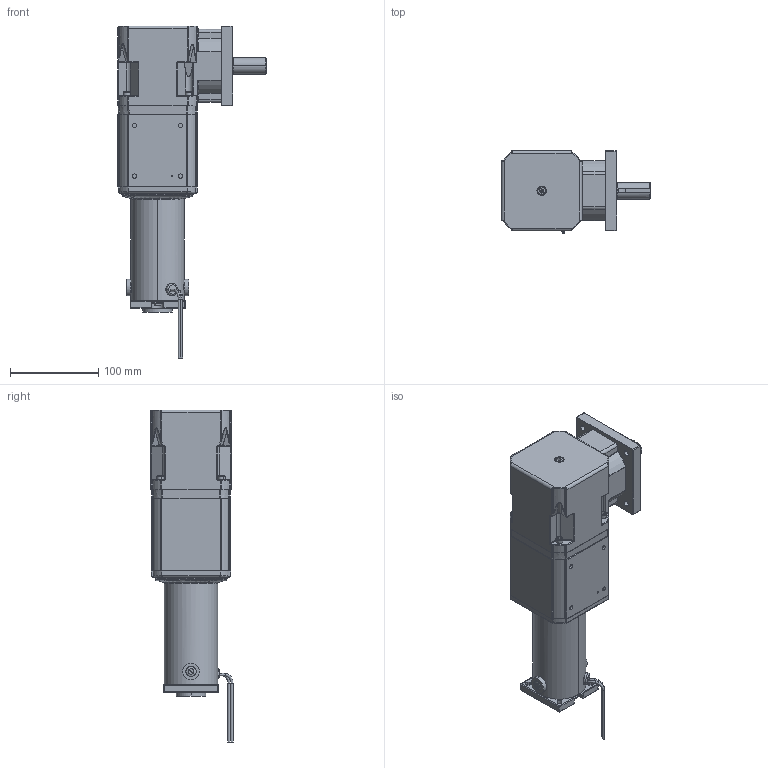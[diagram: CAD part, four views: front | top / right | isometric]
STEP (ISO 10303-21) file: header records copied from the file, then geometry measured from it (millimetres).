
FILE_DESCRIPTION (( 'STEP AP203' ), '1' );
FILE_NAME ('OUTLINE PM6015-RP7300_2S.STEP', '2006-08-03T19:40:12', ( 'Eng-KVV2' ), ( 'Groschopp' ), 'SwSTEP 2.0', 'SolidWorks 2006004', '' );
FILE_SCHEMA (( 'CONFIG_CONTROL_DESIGN' ));
Products named in the file (1): OUTLINE PM6015-RP7300_2S
Bounding box: 168.35 x 92.85 x 375.36 mm (x, y, z)
Surface area: 152365.4 mm2 (no closed solid volume)
Topology: 0 solids, 38 shells, 949 faces, 2727 edges, 1760 vertices
Faces by surface type: cylinder 363, plane 280, bspline 102, torus 101, cone 69, sphere 34
Entity records: 58219 total; most frequent: CARTESIAN_POINT 33933, DIRECTION 5271, ORIENTED_EDGE 4666, EDGE_CURVE 2700, AXIS2_PLACEMENT_3D 2046, VERTEX_POINT 1760, CIRCLE 1198, VECTOR 1179
